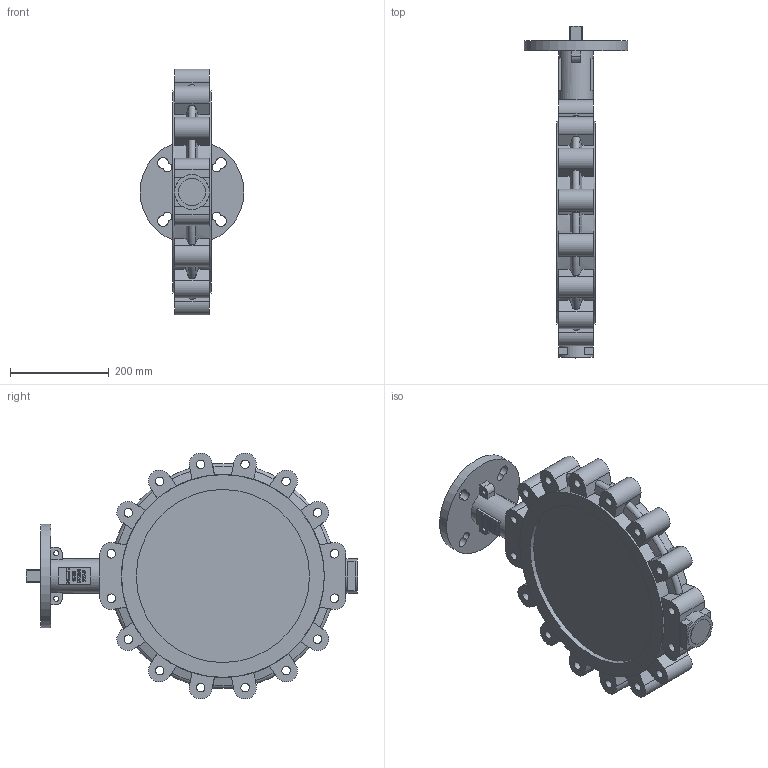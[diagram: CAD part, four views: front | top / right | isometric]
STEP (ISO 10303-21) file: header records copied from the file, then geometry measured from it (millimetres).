
FILE_DESCRIPTION(/* description */ (''),/* implementation_level */ '2;1');
FILE_NAME(/* name */ '6820-DN350-PN10-NBR - 13332791.stp',/* time_stamp */ '2024-09-05T07:51:00+02:00',/* author */ ('roger.thijssen'),/* organization */ (''),/* preprocessor_version */ 'ST-DEVELOPER v20',/* originating_system */ 'Autodesk Inventor 2024',/* authorisation */ '');
FILE_SCHEMA (('AUTOMOTIVE_DESIGN { 1 0 10303 214 3 1 1 }'));
Length unit declared in the file: millimetre
Products named in the file (1): 6820-DN350-PN10
Bounding box: 210 x 671 x 497.15 mm (x, y, z)
Volume: 12026334.8 mm3; surface area: 714206.2 mm2
Topology: 1 solids, 1 shells, 541 faces, 1487 edges, 985 vertices
Faces by surface type: plane 294, bspline 117, cylinder 83, cone 33, torus 14
Full cylindrical faces by diameter (mm): 6.647 x1, 10 x2, 17.294 x16, 55 x1, 70 x2, 210 x1, 350 x2, 410 x2
Entity records: 19549 total; most frequent: CARTESIAN_POINT 5857, ORIENTED_EDGE 2972, DIRECTION 2290, EDGE_CURVE 1486, VERTEX_POINT 985, LINE 880, VECTOR 880, AXIS2_PLACEMENT_3D 705
